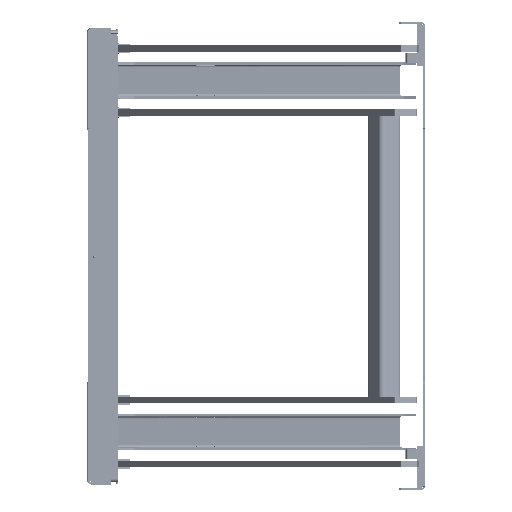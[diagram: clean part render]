
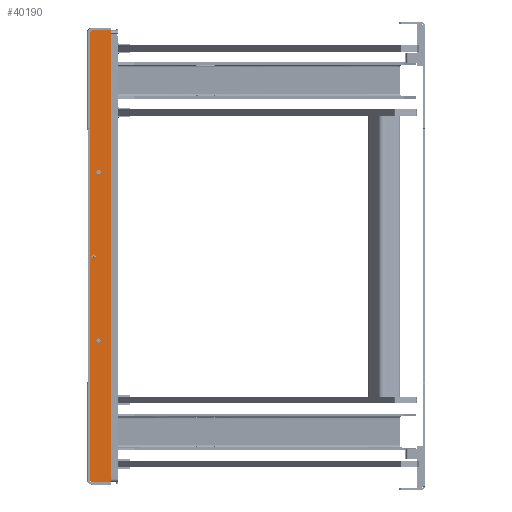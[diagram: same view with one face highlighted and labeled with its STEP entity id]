
A CAD part, left-side view. The second image highlights one B-rep face of the part: STEP entity #40190.
In plain terms, the highlighted planar face has unit normal (-1, -0.001, 0) as drawn and (0, 0, 1) by its records, which use the part's own axes.
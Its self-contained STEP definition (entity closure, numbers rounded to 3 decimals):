
#2884=PLANE('',#42910);
#4349=LINE('',#58043,#8146);
#4355=LINE('',#58054,#8152);
#4360=LINE('',#58066,#8157);
#4363=LINE('',#58071,#8160);
#4365=LINE('',#58074,#8162);
#4366=LINE('',#58076,#8163);
#8146=VECTOR('',#47264,10.);
#8152=VECTOR('',#47272,10.);
#8157=VECTOR('',#47281,10.);
#8160=VECTOR('',#47286,10.);
#8162=VECTOR('',#47290,10.);
#8163=VECTOR('',#47293,10.);
#11621=FACE_BOUND('',#14343,.T.);
#11622=FACE_BOUND('',#14344,.T.);
#11623=FACE_BOUND('',#14345,.T.);
#12120=FACE_OUTER_BOUND('',#14342,.T.);
#14342=EDGE_LOOP('',(#28817,#28818,#28819,#28820,#28821,#28822));
#14343=EDGE_LOOP('',(#28823));
#14344=EDGE_LOOP('',(#28824));
#14345=EDGE_LOOP('',(#28825));
#16735=CIRCLE('',#42895,5.);
#16737=CIRCLE('',#42898,5.);
#16739=CIRCLE('',#42901,5.);
#18301=VERTEX_POINT('',#58026);
#18303=VERTEX_POINT('',#58031);
#18305=VERTEX_POINT('',#58036);
#18307=VERTEX_POINT('',#58041);
#18308=VERTEX_POINT('',#58042);
#18312=VERTEX_POINT('',#58052);
#18316=VERTEX_POINT('',#58064);
#18317=VERTEX_POINT('',#58065);
#18318=VERTEX_POINT('',#58070);
#22391=EDGE_CURVE('',#18301,#18301,#16735,.T.);
#22393=EDGE_CURVE('',#18303,#18303,#16737,.T.);
#22395=EDGE_CURVE('',#18305,#18305,#16739,.T.);
#22397=EDGE_CURVE('',#18307,#18308,#4349,.T.);
#22403=EDGE_CURVE('',#18312,#18307,#4355,.T.);
#22408=EDGE_CURVE('',#18316,#18317,#4360,.T.);
#22411=EDGE_CURVE('',#18317,#18318,#4363,.T.);
#22413=EDGE_CURVE('',#18308,#18316,#4365,.T.);
#22414=EDGE_CURVE('',#18318,#18312,#4366,.T.);
#28817=ORIENTED_EDGE('',*,*,#22397,.F.);
#28818=ORIENTED_EDGE('',*,*,#22403,.F.);
#28819=ORIENTED_EDGE('',*,*,#22414,.F.);
#28820=ORIENTED_EDGE('',*,*,#22411,.F.);
#28821=ORIENTED_EDGE('',*,*,#22408,.F.);
#28822=ORIENTED_EDGE('',*,*,#22413,.F.);
#28823=ORIENTED_EDGE('',*,*,#22391,.T.);
#28824=ORIENTED_EDGE('',*,*,#22393,.T.);
#28825=ORIENTED_EDGE('',*,*,#22395,.T.);
#40190=ADVANCED_FACE('',(#12120,#11621,#11622,#11623),#2884,.T.);
#42895=AXIS2_PLACEMENT_3D('',#58027,#47246,#47247);
#42898=AXIS2_PLACEMENT_3D('',#58032,#47252,#47253);
#42901=AXIS2_PLACEMENT_3D('',#58037,#47258,#47259);
#42910=AXIS2_PLACEMENT_3D('',#58077,#47294,#47295);
#47246=DIRECTION('center_axis',(0.,0.,-1.));
#47247=DIRECTION('ref_axis',(1.,0.,0.));
#47252=DIRECTION('center_axis',(0.,0.,-1.));
#47253=DIRECTION('ref_axis',(1.,0.,0.));
#47258=DIRECTION('center_axis',(0.,0.,-1.));
#47259=DIRECTION('ref_axis',(1.,0.,0.));
#47264=DIRECTION('',(-0.707,-0.707,0.));
#47272=DIRECTION('',(0.,-1.,0.));
#47281=DIRECTION('',(-0.707,0.707,0.));
#47286=DIRECTION('',(0.,1.,0.));
#47290=DIRECTION('',(-1.,0.,0.));
#47293=DIRECTION('',(1.,0.,0.));
#47294=DIRECTION('center_axis',(0.,0.,1.));
#47295=DIRECTION('ref_axis',(1.,0.,0.));
#58026=CARTESIAN_POINT('',(205.,-5.,5.));
#58027=CARTESIAN_POINT('Origin',(200.,-5.,5.));
#58031=CARTESIAN_POINT('',(5.,-17.,5.));
#58032=CARTESIAN_POINT('Origin',(0.,-17.,5.));
#58036=CARTESIAN_POINT('',(-195.,-5.,5.));
#58037=CARTESIAN_POINT('Origin',(-200.,-5.,5.));
#58041=CARTESIAN_POINT('',(537.,-20.,5.));
#58042=CARTESIAN_POINT('',(532.,-25.,5.));
#58043=CARTESIAN_POINT('',(406.5,-150.5,5.));
#58052=CARTESIAN_POINT('',(537.,25.,5.));
#58054=CARTESIAN_POINT('',(537.,25.,5.));
#58064=CARTESIAN_POINT('',(-532.,-25.,5.));
#58065=CARTESIAN_POINT('',(-537.,-20.,5.));
#58066=CARTESIAN_POINT('',(-406.5,-150.5,5.));
#58070=CARTESIAN_POINT('',(-537.,25.,5.));
#58071=CARTESIAN_POINT('',(-537.,-25.,5.));
#58074=CARTESIAN_POINT('',(537.,-25.,5.));
#58076=CARTESIAN_POINT('',(-537.,25.,5.));
#58077=CARTESIAN_POINT('Origin',(0.,0.,5.));
